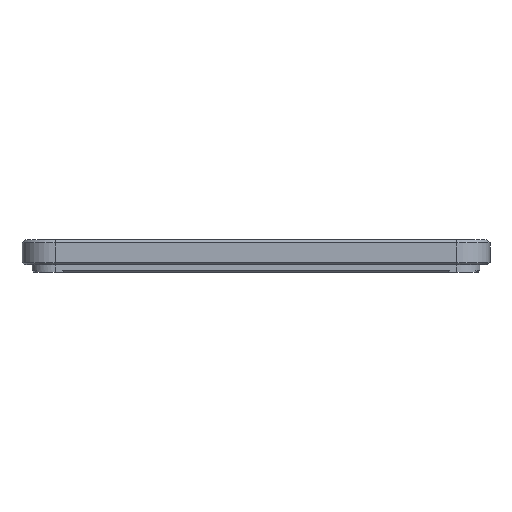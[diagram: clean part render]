
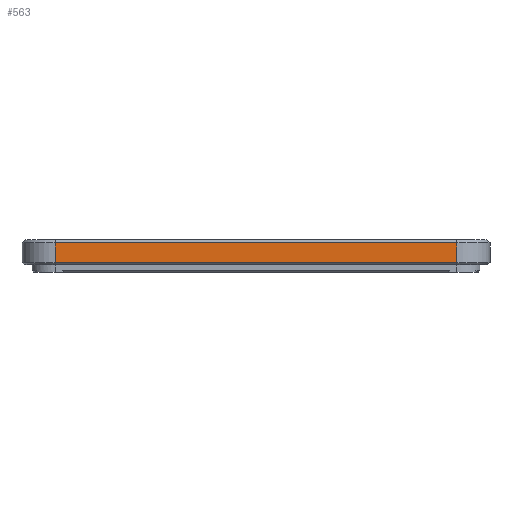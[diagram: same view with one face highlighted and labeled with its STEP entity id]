
A CAD part, left-side view. The second image highlights one B-rep face of the part: STEP entity #563.
In plain terms, the highlighted planar face has unit normal (-1, 0, 0).
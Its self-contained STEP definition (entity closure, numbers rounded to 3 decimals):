
#44 = CYLINDRICAL_SURFACE('',#45,8.05);
#45 = AXIS2_PLACEMENT_3D('',#46,#47,#48);
#46 = CARTESIAN_POINT('',(-83.95,-48.7,19.6));
#47 = DIRECTION('',(0.,0.,1.));
#48 = DIRECTION('',(0.,-1.,0.));
#143 = VERTEX_POINT('',#144);
#144 = CARTESIAN_POINT('',(-92.,-48.7,20.1));
#171 = EDGE_CURVE('',#143,#172,#174,.T.);
#172 = VERTEX_POINT('',#173);
#173 = CARTESIAN_POINT('',(-92.,-48.7,24.95));
#174 = SURFACE_CURVE('',#175,(#179,#186),.PCURVE_S1.);
#175 = LINE('',#176,#177);
#176 = CARTESIAN_POINT('',(-92.,-48.7,19.6));
#177 = VECTOR('',#178,1.);
#178 = DIRECTION('',(0.,0.,1.));
#179 = PCURVE('',#44,#180);
#180 = DEFINITIONAL_REPRESENTATION('',(#181),#185);
#181 = LINE('',#182,#183);
#182 = CARTESIAN_POINT('',(-1.571,0.));
#183 = VECTOR('',#184,1.);
#184 = DIRECTION('',(-0.,1.));
#185 = ( GEOMETRIC_REPRESENTATION_CONTEXT(2) 
PARAMETRIC_REPRESENTATION_CONTEXT() REPRESENTATION_CONTEXT('2D SPACE',''
  ) );
#186 = PCURVE('',#187,#192);
#187 = PLANE('',#188);
#188 = AXIS2_PLACEMENT_3D('',#189,#190,#191);
#189 = CARTESIAN_POINT('',(-92.,56.75,19.6));
#190 = DIRECTION('',(1.,0.,-0.));
#191 = DIRECTION('',(0.,-1.,0.));
#192 = DEFINITIONAL_REPRESENTATION('',(#193),#197);
#193 = LINE('',#194,#195);
#194 = CARTESIAN_POINT('',(105.45,0.));
#195 = VECTOR('',#196,1.);
#196 = DIRECTION('',(0.,-1.));
#197 = ( GEOMETRIC_REPRESENTATION_CONTEXT(2) 
PARAMETRIC_REPRESENTATION_CONTEXT() REPRESENTATION_CONTEXT('2D SPACE',''
  ) );
#476 = PLANE('',#477);
#477 = AXIS2_PLACEMENT_3D('',#478,#479,#480);
#478 = CARTESIAN_POINT('',(-91.75,48.7,19.85));
#479 = DIRECTION('',(-0.707,0.,-0.707));
#480 = DIRECTION('',(-0.,1.,0.));
#529 = PLANE('',#530);
#530 = AXIS2_PLACEMENT_3D('',#531,#532,#533);
#531 = CARTESIAN_POINT('',(-91.6,48.7,25.35));
#532 = DIRECTION('',(0.707,0.,-0.707)
  );
#533 = DIRECTION('',(0.,1.,0.));
#563 = ADVANCED_FACE('',(#564),#187,.F.);
#564 = FACE_BOUND('',#565,.F.);
#565 = EDGE_LOOP('',(#566,#596,#617,#618));
#566 = ORIENTED_EDGE('',*,*,#567,.T.);
#567 = EDGE_CURVE('',#568,#570,#572,.T.);
#568 = VERTEX_POINT('',#569);
#569 = CARTESIAN_POINT('',(-92.,48.7,20.1));
#570 = VERTEX_POINT('',#571);
#571 = CARTESIAN_POINT('',(-92.,48.7,24.95));
#572 = SURFACE_CURVE('',#573,(#577,#584),.PCURVE_S1.);
#573 = LINE('',#574,#575);
#574 = CARTESIAN_POINT('',(-92.,48.7,19.6));
#575 = VECTOR('',#576,1.);
#576 = DIRECTION('',(0.,0.,1.));
#577 = PCURVE('',#187,#578);
#578 = DEFINITIONAL_REPRESENTATION('',(#579),#583);
#579 = LINE('',#580,#581);
#580 = CARTESIAN_POINT('',(8.05,0.));
#581 = VECTOR('',#582,1.);
#582 = DIRECTION('',(0.,-1.));
#583 = ( GEOMETRIC_REPRESENTATION_CONTEXT(2) 
PARAMETRIC_REPRESENTATION_CONTEXT() REPRESENTATION_CONTEXT('2D SPACE',''
  ) );
#584 = PCURVE('',#585,#590);
#585 = CYLINDRICAL_SURFACE('',#586,8.05);
#586 = AXIS2_PLACEMENT_3D('',#587,#588,#589);
#587 = CARTESIAN_POINT('',(-83.95,48.7,19.6));
#588 = DIRECTION('',(0.,0.,1.));
#589 = DIRECTION('',(-0.,1.,0.));
#590 = DEFINITIONAL_REPRESENTATION('',(#591),#595);
#591 = LINE('',#592,#593);
#592 = CARTESIAN_POINT('',(1.571,0.));
#593 = VECTOR('',#594,1.);
#594 = DIRECTION('',(0.,1.));
#595 = ( GEOMETRIC_REPRESENTATION_CONTEXT(2) 
PARAMETRIC_REPRESENTATION_CONTEXT() REPRESENTATION_CONTEXT('2D SPACE',''
  ) );
#596 = ORIENTED_EDGE('',*,*,#597,.T.);
#597 = EDGE_CURVE('',#570,#172,#598,.T.);
#598 = SURFACE_CURVE('',#599,(#603,#610),.PCURVE_S1.);
#599 = LINE('',#600,#601);
#600 = CARTESIAN_POINT('',(-92.,48.7,24.95));
#601 = VECTOR('',#602,1.);
#602 = DIRECTION('',(0.,-1.,0.));
#603 = PCURVE('',#187,#604);
#604 = DEFINITIONAL_REPRESENTATION('',(#605),#609);
#605 = LINE('',#606,#607);
#606 = CARTESIAN_POINT('',(8.05,-5.35));
#607 = VECTOR('',#608,1.);
#608 = DIRECTION('',(1.,0.));
#609 = ( GEOMETRIC_REPRESENTATION_CONTEXT(2) 
PARAMETRIC_REPRESENTATION_CONTEXT() REPRESENTATION_CONTEXT('2D SPACE',''
  ) );
#610 = PCURVE('',#529,#611);
#611 = DEFINITIONAL_REPRESENTATION('',(#612),#616);
#612 = LINE('',#613,#614);
#613 = CARTESIAN_POINT('',(-0.,-0.566));
#614 = VECTOR('',#615,1.);
#615 = DIRECTION('',(-1.,0.));
#616 = ( GEOMETRIC_REPRESENTATION_CONTEXT(2) 
PARAMETRIC_REPRESENTATION_CONTEXT() REPRESENTATION_CONTEXT('2D SPACE',''
  ) );
#617 = ORIENTED_EDGE('',*,*,#171,.F.);
#618 = ORIENTED_EDGE('',*,*,#619,.F.);
#619 = EDGE_CURVE('',#568,#143,#620,.T.);
#620 = SURFACE_CURVE('',#621,(#625,#632),.PCURVE_S1.);
#621 = LINE('',#622,#623);
#622 = CARTESIAN_POINT('',(-92.,48.7,20.1));
#623 = VECTOR('',#624,1.);
#624 = DIRECTION('',(0.,-1.,0.));
#625 = PCURVE('',#187,#626);
#626 = DEFINITIONAL_REPRESENTATION('',(#627),#631);
#627 = LINE('',#628,#629);
#628 = CARTESIAN_POINT('',(8.05,-0.5));
#629 = VECTOR('',#630,1.);
#630 = DIRECTION('',(1.,0.));
#631 = ( GEOMETRIC_REPRESENTATION_CONTEXT(2) 
PARAMETRIC_REPRESENTATION_CONTEXT() REPRESENTATION_CONTEXT('2D SPACE',''
  ) );
#632 = PCURVE('',#476,#633);
#633 = DEFINITIONAL_REPRESENTATION('',(#634),#638);
#634 = LINE('',#635,#636);
#635 = CARTESIAN_POINT('',(-0.,-0.354));
#636 = VECTOR('',#637,1.);
#637 = DIRECTION('',(-1.,0.));
#638 = ( GEOMETRIC_REPRESENTATION_CONTEXT(2) 
PARAMETRIC_REPRESENTATION_CONTEXT() REPRESENTATION_CONTEXT('2D SPACE',''
  ) );
